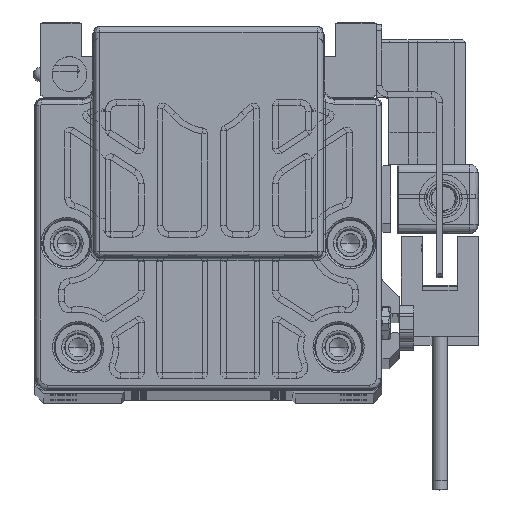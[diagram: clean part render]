
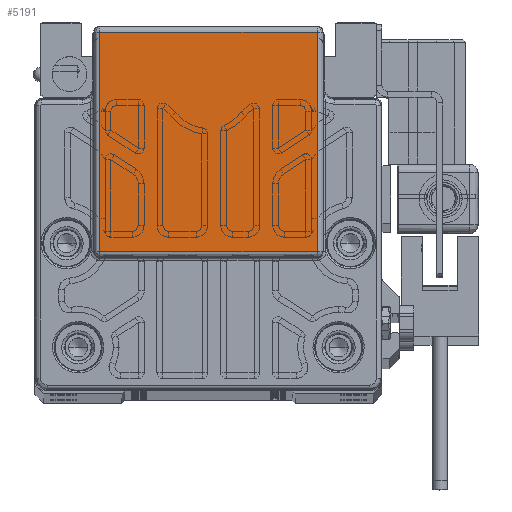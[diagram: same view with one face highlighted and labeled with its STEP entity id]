
A CAD part, top view. The second image highlights one B-rep face of the part: STEP entity #5191.
In plain terms, the highlighted planar face has unit normal (0, 0, 1) as drawn and (0, 0, -1) by its records, which use the part's own axes.
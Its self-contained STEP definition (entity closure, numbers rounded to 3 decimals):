
#434 = ORIENTED_EDGE ( 'NONE', *, *, #35492, .F. ) ;
#3240 = FACE_OUTER_BOUND ( 'NONE', #3871, .T. ) ;
#3871 = EDGE_LOOP ( 'NONE', ( #47861, #434, #15661, #75732 ) ) ;
#5191 = ADVANCED_FACE ( 'NONE', ( #3240 ), #27301, .T. ) ;
#6649 = DIRECTION ( 'NONE',  ( 0., -1., 0. ) ) ;
#7360 = CARTESIAN_POINT ( 'NONE',  ( -18.808, 62.447, -143. ) ) ;
#9116 = VERTEX_POINT ( 'NONE', #52227 ) ;
#10965 = CARTESIAN_POINT ( 'NONE',  ( 19., 62.447, -143. ) ) ;
#15661 = ORIENTED_EDGE ( 'NONE', *, *, #25617, .F. ) ;
#16220 = DIRECTION ( 'NONE',  ( 0., 0., -1. ) ) ;
#16904 = CARTESIAN_POINT ( 'NONE',  ( 18.808, 62.447, -143. ) ) ;
#23366 = VERTEX_POINT ( 'NONE', #62903 ) ;
#25617 = EDGE_CURVE ( 'NONE', #41227, #23366, #67375, .T. ) ;
#25839 = VECTOR ( 'NONE', #53914, 1000. ) ;
#25864 = VECTOR ( 'NONE', #6649, 1000. ) ;
#27301 = PLANE ( 'NONE',  #49292 ) ;
#29896 = LINE ( 'NONE', #10965, #25839 ) ;
#31904 = CARTESIAN_POINT ( 'NONE',  ( -18.808, 31., -143. ) ) ;
#32819 = DIRECTION ( 'NONE',  ( 0., 1., 0. ) ) ;
#34278 = CARTESIAN_POINT ( 'NONE',  ( 18.808, 24.5, -143. ) ) ;
#35492 = EDGE_CURVE ( 'NONE', #23366, #9116, #49981, .T. ) ;
#38320 = VECTOR ( 'NONE', #45711, 1000. ) ;
#41227 = VERTEX_POINT ( 'NONE', #7360 ) ;
#44066 = CARTESIAN_POINT ( 'NONE',  ( 19., 24.518, -143. ) ) ;
#44451 = DIRECTION ( 'NONE',  ( 1., 0., 0. ) ) ;
#45711 = DIRECTION ( 'NONE',  ( 0., 1., 0. ) ) ;
#47861 = ORIENTED_EDGE ( 'NONE', *, *, #57113, .F. ) ;
#49292 = AXIS2_PLACEMENT_3D ( 'NONE', #63535, #16220, #32819 ) ;
#49981 = LINE ( 'NONE', #44066, #66370 ) ;
#52227 = CARTESIAN_POINT ( 'NONE',  ( 18.808, 24.518, -143. ) ) ;
#53914 = DIRECTION ( 'NONE',  ( 1., 0., 0. ) ) ;
#55056 = VERTEX_POINT ( 'NONE', #16904 ) ;
#57113 = EDGE_CURVE ( 'NONE', #9116, #55056, #58291, .T. ) ;
#58291 = LINE ( 'NONE', #34278, #38320 ) ;
#62903 = CARTESIAN_POINT ( 'NONE',  ( -18.808, 24.518, -143. ) ) ;
#63535 = CARTESIAN_POINT ( 'NONE',  ( 19., 24.5, -143. ) ) ;
#66370 = VECTOR ( 'NONE', #44451, 1000. ) ;
#67375 = LINE ( 'NONE', #31904, #25864 ) ;
#75732 = ORIENTED_EDGE ( 'NONE', *, *, #75934, .T. ) ;
#75934 = EDGE_CURVE ( 'NONE', #41227, #55056, #29896, .T. ) ;
